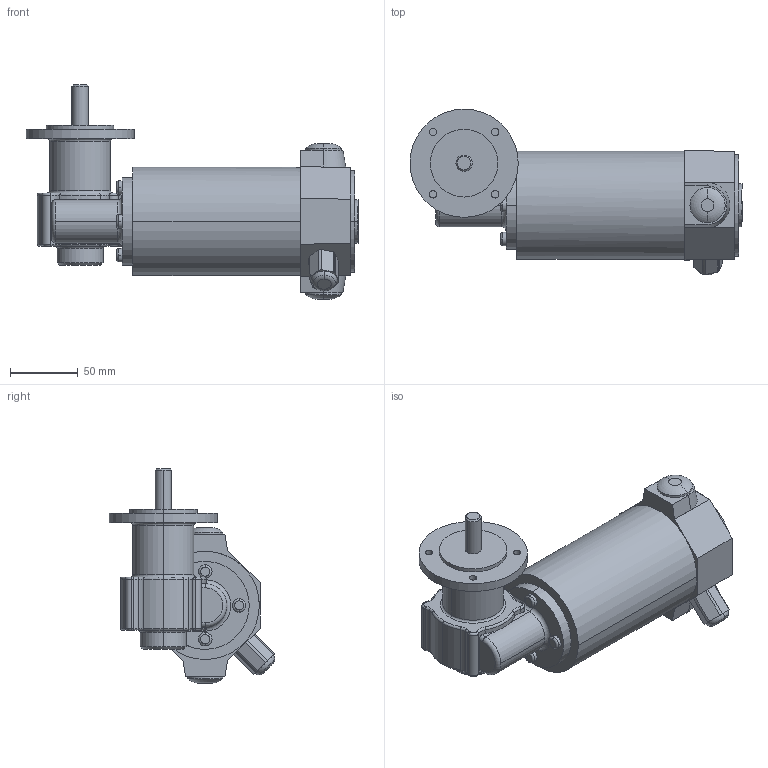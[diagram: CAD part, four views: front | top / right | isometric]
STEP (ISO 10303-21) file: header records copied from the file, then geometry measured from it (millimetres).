
FILE_DESCRIPTION(('OneSpaceDesigner STEP Export'),'2;1');
FILE_NAME('EPG13_GF129.stp','2008-07-02T15:32:12',(''),(''),'OneSpace Designer STEP processor (Jan. 2003) for AP214(CD)(Solid Model)','OneSpace Designer 12.01D 09-Jul-2004 (C) CoCreate Software GmbH','');
FILE_SCHEMA(('AUTOMOTIVE_DESIGN_CC2 {1 2 10303 214 -1 1 5 1}'));
Length unit declared in the file: millimetre
Products named in the file (2): EPG13_GF129
Assembly tree (1 placements, depth 2):
  EPG13_GF129
    EPG13_GF129
Bounding box: 245.5 x 122.39 x 158.5 mm (x, y, z)
Volume: 1177822.5 mm3; surface area: 90902.6 mm2
Topology: 1 solids, 1 shells, 212 faces, 512 edges, 318 vertices
Faces by surface type: cylinder 85, torus 74, plane 47, cone 4, bspline 2
Entity records: 8375 total; most frequent: CARTESIAN_POINT 3901, ORIENTED_EDGE 1024, DIRECTION 845, EDGE_CURVE 512, AXIS2_PLACEMENT_3D 350, VERTEX_POINT 318, EDGE_LOOP 236, CIRCLE 215
